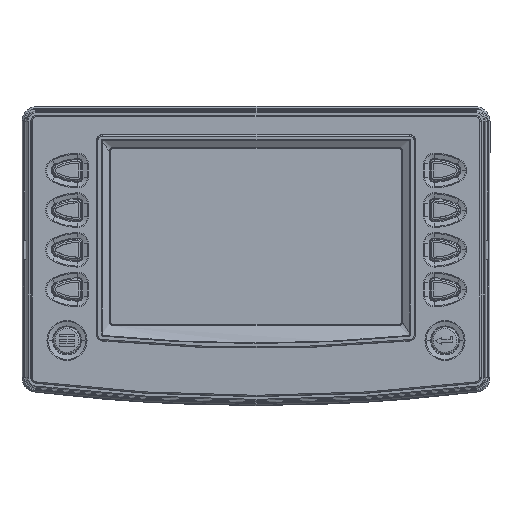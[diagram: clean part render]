
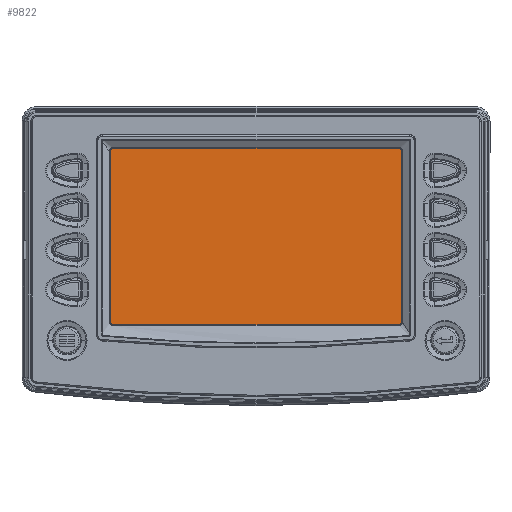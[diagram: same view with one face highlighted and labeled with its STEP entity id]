
A CAD part, top view. The second image highlights one B-rep face of the part: STEP entity #9822.
In plain terms, the highlighted planar face has unit normal (0, 0, 1).
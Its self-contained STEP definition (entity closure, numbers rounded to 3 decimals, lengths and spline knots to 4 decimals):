
#1049 = VECTOR ( 'NONE', #28679, 39.3701 ) ;
#1137 = VECTOR ( 'NONE', #29256, 39.3701 ) ;
#1146 = VECTOR ( 'NONE', #29266, 39.3701 ) ;
#1772 = VECTOR ( 'NONE', #13794, 39.3701 ) ;
#8323 = EDGE_LOOP ( 'NONE', ( #60725, #60965, #60753, #60754 ) ) ;
#9822 = ADVANCED_FACE ( 'NONE', ( #31236 ), #31237, .F. ) ;
#12725 = AXIS2_PLACEMENT_3D ( 'NONE', #31228, #31240, #31241 ) ;
#13792 = LINE ( 'NONE', #13793, #1772 ) ;
#13793 = CARTESIAN_POINT ( 'NONE',  ( -3.186, 2.4647, -0.128 ) ) ;
#13794 = DIRECTION ( 'NONE',  ( 0., -1., 0. ) ) ;
#28672 = LINE ( 'NONE', #28677, #1049 ) ;
#28677 = CARTESIAN_POINT ( 'NONE',  ( 3.4697, -1.9347, -0.128 ) ) ;
#28679 = DIRECTION ( 'NONE',  ( 1., 0., 0. ) ) ;
#29209 = LINE ( 'NONE', #29249, #1137 ) ;
#29249 = CARTESIAN_POINT ( 'NONE',  ( 3.186, 2.4647, -0.128 ) ) ;
#29256 = DIRECTION ( 'NONE',  ( 0., 1., 0. ) ) ;
#29259 = LINE ( 'NONE', #29264, #1146 ) ;
#29264 = CARTESIAN_POINT ( 'NONE',  ( 3.4697, 2.2497, -0.128 ) ) ;
#29266 = DIRECTION ( 'NONE',  ( -1., 0., 0. ) ) ;
#31228 = CARTESIAN_POINT ( 'NONE',  ( 3.4697, 2.4647, -0.128 ) ) ;
#31236 = FACE_OUTER_BOUND ( 'NONE', #8323, .T. ) ;
#31237 = PLANE ( 'NONE',  #12725 ) ;
#31240 = DIRECTION ( 'NONE',  ( 0., 0., -1. ) ) ;
#31241 = DIRECTION ( 'NONE',  ( -1., 0., 0. ) ) ;
#60725 = ORIENTED_EDGE ( 'NONE', *, *, #102653, .T. ) ;
#60753 = ORIENTED_EDGE ( 'NONE', *, *, #102610, .T. ) ;
#60754 = ORIENTED_EDGE ( 'NONE', *, *, #102652, .T. ) ;
#60965 = ORIENTED_EDGE ( 'NONE', *, *, #103353, .T. ) ;
#77276 = CARTESIAN_POINT ( 'NONE',  ( 3.186, -1.9347, -0.128 ) ) ;
#77277 = CARTESIAN_POINT ( 'NONE',  ( -3.186, -1.9347, -0.128 ) ) ;
#77282 = CARTESIAN_POINT ( 'NONE',  ( 3.186, 2.2497, -0.128 ) ) ;
#77283 = CARTESIAN_POINT ( 'NONE',  ( -3.186, 2.2497, -0.128 ) ) ;
#84960 = VERTEX_POINT ( 'NONE', #77276 ) ;
#84961 = VERTEX_POINT ( 'NONE', #77277 ) ;
#84966 = VERTEX_POINT ( 'NONE', #77282 ) ;
#84967 = VERTEX_POINT ( 'NONE', #77283 ) ;
#102610 = EDGE_CURVE ( 'NONE', #84961, #84960, #28672, .T. ) ;
#102652 = EDGE_CURVE ( 'NONE', #84960, #84966, #29209, .T. ) ;
#102653 = EDGE_CURVE ( 'NONE', #84966, #84967, #29259, .T. ) ;
#103353 = EDGE_CURVE ( 'NONE', #84967, #84961, #13792, .T. ) ;
